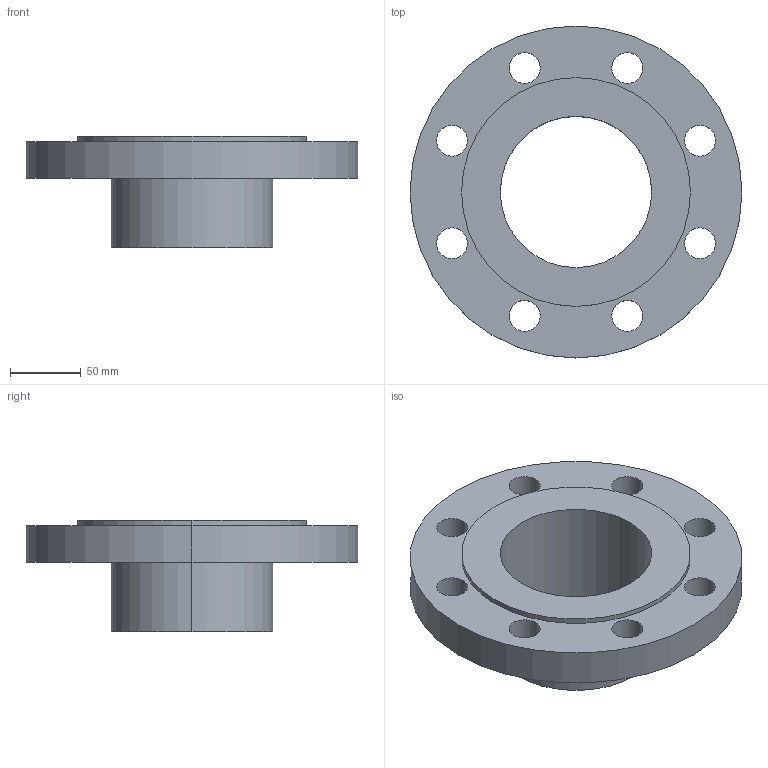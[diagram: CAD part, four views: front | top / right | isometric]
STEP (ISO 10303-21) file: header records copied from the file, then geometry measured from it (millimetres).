
FILE_DESCRIPTION (( 'STEP AP214' ), '1' );
FILE_NAME ('PN40 DN100 Type 02 in 33 - (Type A Face).STEP', '2019-01-02T00:27:34', ( '' ), ( '' ), 'SwSTEP 2.0', 'SolidWorks 2019', '' );
FILE_SCHEMA (( 'AUTOMOTIVE_DESIGN' ));
Length unit declared in the file: millimetre
Products named in the file (1): PN40 DN100 Type 02 in 33 - (Type A Face)
Bounding box: 235 x 235 x 78.6 mm (x, y, z)
Volume: 889941.4 mm3; surface area: 177341 mm2
Topology: 2 solids, 2 shells, 35 faces, 86 edges, 56 vertices
Faces by surface type: cylinder 26, plane 5, cone 4
Entity records: 1147 total; most frequent: DIRECTION 214, CARTESIAN_POINT 178, ORIENTED_EDGE 172, AXIS2_PLACEMENT_3D 92, EDGE_CURVE 86, CIRCLE 56, VERTEX_POINT 56, EDGE_LOOP 56
